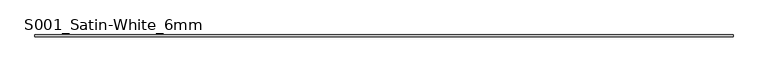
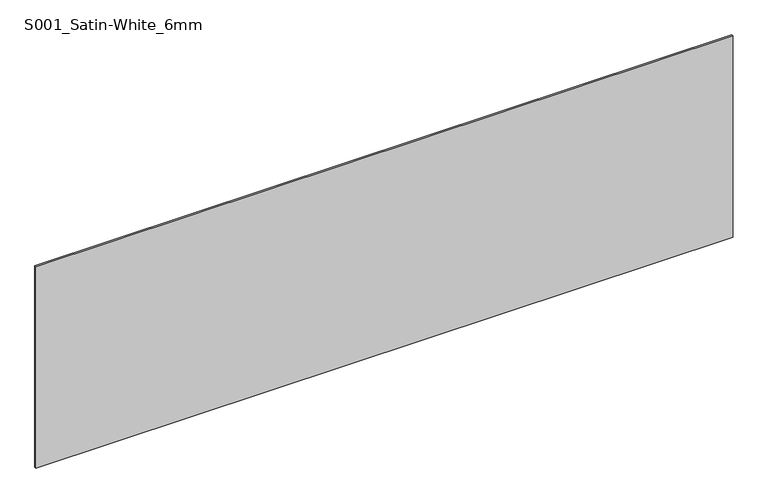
"""IFC4 building model written with IfcOpenShell, lengths in millimetres: plate geometry, Curtain-Panels_Outdoor-Material_HI-MACS_Solids : S001_Satin-White_6mm."""

from ifc_helpers import new_model, si_unit, origin, origin_with_axes, place, context, project, spatial, polyline, outline, extrude, source, transform, mapped, element, save


def s001_satin_white_6mm_31e9199e(model_context):
    return source(origin(), model_context, "Body", "SweptSolid", [
        extrude(outline(polyline([(1245.0, 3.0), (1245.0, -3.0), (-1245.0, -3.0), (-1245.0, 3.0), (1245.0, 3.0)])), origin_with_axes(), (0.0, 0.0, 1.0), 760.0),
    ])


if __name__ == "__main__":
    model = new_model("IFC4")
    model_context = context("Model", 3, world=origin())
    ifc_project = project(units=[si_unit("LENGTHUNIT", "METRE", prefix="MILLI")], contexts=[model_context])
    site = spatial("IfcSite", under=ifc_project)
    building = spatial("IfcBuilding", under=site)
    placement = place(None, origin())
    s001_satin_white_6mm_shape = s001_satin_white_6mm_31e9199e(model_context)
    element("IfcPlate", 1, ObjectType="Curtain-Panels_Outdoor-Material_HI-MACS_Solids : S001_Satin-White_6mm", at=placement, inside=building, context=model_context, shape_type="MappedRepresentation", body=[
        mapped(s001_satin_white_6mm_shape, transform((0.0, 0.0, 0.0), x_axis=(1.0, 0.0, 0.0), y_axis=(0.0, 1.0, 0.0), z_axis=(0.0, 0.0, 1.0))),
    ])
    save(model, "model.ifc")
